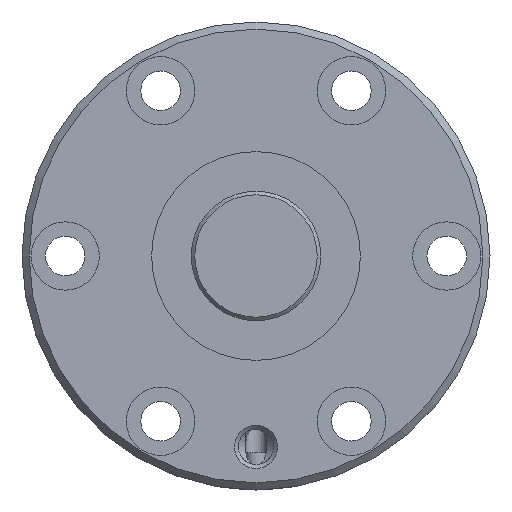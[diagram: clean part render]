
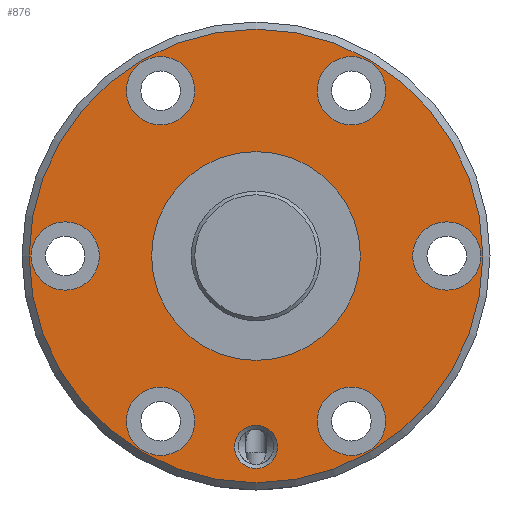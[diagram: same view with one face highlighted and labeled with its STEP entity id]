
A CAD part, left-side view. The second image highlights one B-rep face of the part: STEP entity #876.
In plain terms, the highlighted planar face has unit normal (-1, 0, 0).
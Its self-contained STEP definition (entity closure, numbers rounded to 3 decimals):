
#93=PLANE('',#982);
#152=ORIENTED_EDGE('',*,*,#342,.T.);
#153=ORIENTED_EDGE('',*,*,#343,.T.);
#154=ORIENTED_EDGE('',*,*,#344,.T.);
#155=ORIENTED_EDGE('',*,*,#345,.T.);
#156=ORIENTED_EDGE('',*,*,#346,.T.);
#157=ORIENTED_EDGE('',*,*,#347,.T.);
#158=ORIENTED_EDGE('',*,*,#348,.T.);
#159=ORIENTED_EDGE('',*,*,#349,.T.);
#160=ORIENTED_EDGE('',*,*,#341,.F.);
#341=EDGE_CURVE('',#441,#441,#520,.T.);
#342=EDGE_CURVE('',#442,#442,#521,.T.);
#343=EDGE_CURVE('',#443,#443,#522,.F.);
#344=EDGE_CURVE('',#444,#444,#523,.T.);
#345=EDGE_CURVE('',#445,#445,#524,.T.);
#346=EDGE_CURVE('',#446,#446,#525,.T.);
#347=EDGE_CURVE('',#447,#447,#526,.T.);
#348=EDGE_CURVE('',#448,#448,#527,.T.);
#349=EDGE_CURVE('',#449,#449,#528,.T.);
#441=VERTEX_POINT('',#1472);
#442=VERTEX_POINT('',#1475);
#443=VERTEX_POINT('',#1477);
#444=VERTEX_POINT('',#1479);
#445=VERTEX_POINT('',#1481);
#446=VERTEX_POINT('',#1483);
#447=VERTEX_POINT('',#1485);
#448=VERTEX_POINT('',#1487);
#449=VERTEX_POINT('',#1489);
#520=CIRCLE('',#981,31.5);
#521=CIRCLE('',#983,14.5);
#522=CIRCLE('',#984,4.75);
#523=CIRCLE('',#985,3.);
#524=CIRCLE('',#986,4.75);
#525=CIRCLE('',#987,4.75);
#526=CIRCLE('',#988,4.75);
#527=CIRCLE('',#989,4.75);
#528=CIRCLE('',#990,4.75);
#599=EDGE_LOOP('',(#152));
#600=EDGE_LOOP('',(#153));
#601=EDGE_LOOP('',(#154));
#602=EDGE_LOOP('',(#155));
#603=EDGE_LOOP('',(#156));
#604=EDGE_LOOP('',(#157));
#605=EDGE_LOOP('',(#158));
#606=EDGE_LOOP('',(#159));
#607=EDGE_LOOP('',(#160));
#729=FACE_BOUND('',#599,.T.);
#730=FACE_BOUND('',#600,.T.);
#731=FACE_BOUND('',#601,.T.);
#732=FACE_BOUND('',#602,.T.);
#733=FACE_BOUND('',#603,.T.);
#734=FACE_BOUND('',#604,.T.);
#735=FACE_BOUND('',#605,.T.);
#736=FACE_BOUND('',#606,.T.);
#737=FACE_BOUND('',#607,.T.);
#876=ADVANCED_FACE('',(#729,#730,#731,#732,#733,#734,#735,#736,#737),#93,
 .T.);
#981=AXIS2_PLACEMENT_3D('',#1471,#1145,#1146);
#982=AXIS2_PLACEMENT_3D('',#1473,#1147,#1148);
#983=AXIS2_PLACEMENT_3D('',#1474,#1149,#1150);
#984=AXIS2_PLACEMENT_3D('',#1476,#1151,#1152);
#985=AXIS2_PLACEMENT_3D('',#1478,#1153,#1154);
#986=AXIS2_PLACEMENT_3D('',#1480,#1155,#1156);
#987=AXIS2_PLACEMENT_3D('',#1482,#1157,#1158);
#988=AXIS2_PLACEMENT_3D('',#1484,#1159,#1160);
#989=AXIS2_PLACEMENT_3D('',#1486,#1161,#1162);
#990=AXIS2_PLACEMENT_3D('',#1488,#1163,#1164);
#1145=DIRECTION('',(1.,0.,0.));
#1146=DIRECTION('',(0.,0.,-1.));
#1147=DIRECTION('',(-1.,0.,0.));
#1148=DIRECTION('',(0.,0.,1.));
#1149=DIRECTION('',(1.,0.,0.));
#1150=DIRECTION('',(0.,0.,-1.));
#1151=DIRECTION('',(-1.,0.,0.));
#1152=DIRECTION('',(0.,0.,1.));
#1153=DIRECTION('',(1.,0.,0.));
#1154=DIRECTION('',(0.,0.,-1.));
#1155=DIRECTION('',(1.,0.,0.));
#1156=DIRECTION('',(0.,0.,-1.));
#1157=DIRECTION('',(1.,0.,0.));
#1158=DIRECTION('',(0.,0.,-1.));
#1159=DIRECTION('',(1.,0.,0.));
#1160=DIRECTION('',(0.,0.,-1.));
#1161=DIRECTION('',(1.,0.,0.));
#1162=DIRECTION('',(0.,0.,-1.));
#1163=DIRECTION('',(1.,0.,0.));
#1164=DIRECTION('',(0.,0.,-1.));
#1471=CARTESIAN_POINT('',(0.,0.,0.));
#1472=CARTESIAN_POINT('',(0.,0.,-31.5));
#1473=CARTESIAN_POINT('',(0.,31.5,0.));
#1474=CARTESIAN_POINT('',(0.,0.,0.));
#1475=CARTESIAN_POINT('',(0.,0.,-14.5));
#1476=CARTESIAN_POINT('',(0.,26.5,0.));
#1477=CARTESIAN_POINT('',(0.,26.5,4.75));
#1478=CARTESIAN_POINT('',(0.,0.,-26.5));
#1479=CARTESIAN_POINT('',(0.,0.,-29.5));
#1480=CARTESIAN_POINT('',(0.,-26.5,0.));
#1481=CARTESIAN_POINT('',(0.,-26.5,-4.75));
#1482=CARTESIAN_POINT('',(0.,13.25,22.95));
#1483=CARTESIAN_POINT('',(0.,13.25,18.2));
#1484=CARTESIAN_POINT('',(0.,-13.25,-22.95));
#1485=CARTESIAN_POINT('',(0.,-13.25,-27.7));
#1486=CARTESIAN_POINT('',(0.,-13.25,22.95));
#1487=CARTESIAN_POINT('',(0.,-13.25,18.2));
#1488=CARTESIAN_POINT('',(0.,13.25,-22.95));
#1489=CARTESIAN_POINT('',(0.,13.25,-27.7));
